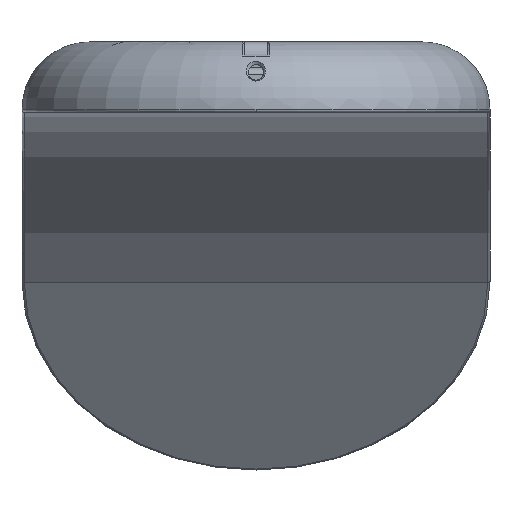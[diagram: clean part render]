
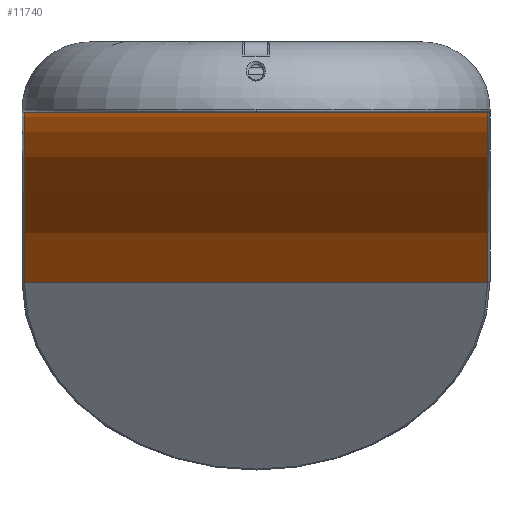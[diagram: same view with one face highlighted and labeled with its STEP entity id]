
A CAD part, front view. The second image highlights one B-rep face of the part: STEP entity #11740.
In plain terms, the highlighted cylindrical face has radius 90 mm (diameter 180 mm), a partial arc.
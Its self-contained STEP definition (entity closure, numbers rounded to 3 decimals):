
#217 = EDGE_LOOP ( 'NONE', ( #15708, #14734, #11915, #13022 ) ) ;
#227 = DIRECTION ( 'NONE',  ( -1., 0., 0. ) ) ;
#1359 = DIRECTION ( 'NONE',  ( -1., 0., 0. ) ) ;
#2129 = CIRCLE ( 'NONE', #4486, 90. ) ;
#2479 = EDGE_CURVE ( 'NONE', #3613, #7374, #12443, .T. ) ;
#3014 = VERTEX_POINT ( 'NONE', #5086 ) ;
#3175 = EDGE_CURVE ( 'NONE', #3675, #3613, #2129, .T. ) ;
#3260 = CARTESIAN_POINT ( 'NONE',  ( 49.5, 0., -90. ) ) ;
#3613 = VERTEX_POINT ( 'NONE', #15175 ) ;
#3675 = VERTEX_POINT ( 'NONE', #15112 ) ;
#4119 = DIRECTION ( 'NONE',  ( -1., 0., 0. ) ) ;
#4383 = DIRECTION ( 'NONE',  ( 0., 0., 1. ) ) ;
#4486 = AXIS2_PLACEMENT_3D ( 'NONE', #3260, #4729, #8701 ) ;
#4729 = DIRECTION ( 'NONE',  ( 1., 0., 0. ) ) ;
#5086 = CARTESIAN_POINT ( 'NONE',  ( -49.5, 72.347, -36.466 ) ) ;
#5327 = FACE_OUTER_BOUND ( 'NONE', #217, .T. ) ;
#5545 = AXIS2_PLACEMENT_3D ( 'NONE', #16956, #227, #4383 ) ;
#6434 = VECTOR ( 'NONE', #10867, 1000. ) ;
#6788 = LINE ( 'NONE', #17981, #6434 ) ;
#7374 = VERTEX_POINT ( 'NONE', #16302 ) ;
#8701 = DIRECTION ( 'NONE',  ( 0., 0., 1. ) ) ;
#10391 = VECTOR ( 'NONE', #4119, 1000. ) ;
#10867 = DIRECTION ( 'NONE',  ( -1., 0., 0. ) ) ;
#10968 = CYLINDRICAL_SURFACE ( 'NONE', #16108, 90. ) ;
#11416 = DIRECTION ( 'NONE',  ( 0., 0., 1. ) ) ;
#11451 = CIRCLE ( 'NONE', #5545, 90. ) ;
#11740 = ADVANCED_FACE ( 'NONE', ( #5327 ), #10968, .F. ) ;
#11915 = ORIENTED_EDGE ( 'NONE', *, *, #2479, .T. ) ;
#12443 = LINE ( 'NONE', #18068, #10391 ) ;
#13022 = ORIENTED_EDGE ( 'NONE', *, *, #14537, .T. ) ;
#14458 = EDGE_CURVE ( 'NONE', #3675, #3014, #6788, .T. ) ;
#14537 = EDGE_CURVE ( 'NONE', #7374, #3014, #11451, .T. ) ;
#14734 = ORIENTED_EDGE ( 'NONE', *, *, #3175, .T. ) ;
#15112 = CARTESIAN_POINT ( 'NONE',  ( 49.5, 72.347, -36.466 ) ) ;
#15175 = CARTESIAN_POINT ( 'NONE',  ( 49.5, 0., 0. ) ) ;
#15708 = ORIENTED_EDGE ( 'NONE', *, *, #14458, .F. ) ;
#16108 = AXIS2_PLACEMENT_3D ( 'NONE', #17713, #1359, #11416 ) ;
#16302 = CARTESIAN_POINT ( 'NONE',  ( -49.5, 0., 0. ) ) ;
#16956 = CARTESIAN_POINT ( 'NONE',  ( -49.5, 0., -90. ) ) ;
#17713 = CARTESIAN_POINT ( 'NONE',  ( 50., 0., -90. ) ) ;
#17981 = CARTESIAN_POINT ( 'NONE',  ( 50., 72.347, -36.466 ) ) ;
#18068 = CARTESIAN_POINT ( 'NONE',  ( 50., 0., 0. ) ) ;
